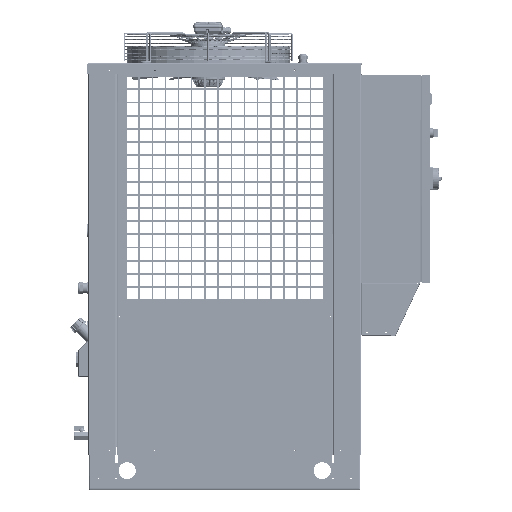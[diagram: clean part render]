
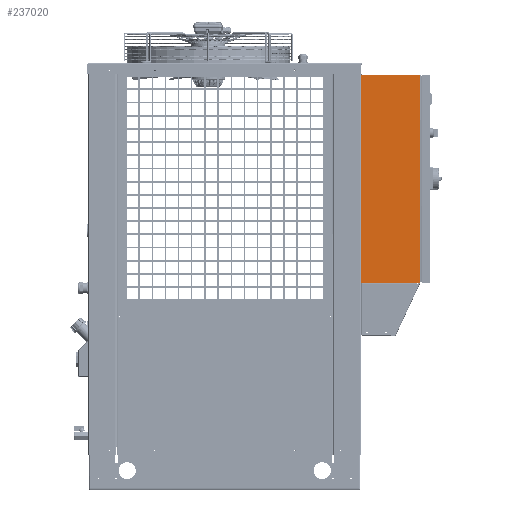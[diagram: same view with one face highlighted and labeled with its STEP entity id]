
A CAD part, top view. The second image highlights one B-rep face of the part: STEP entity #237020.
In plain terms, the highlighted planar face has unit normal (0, 0, 1) as drawn and (-1, 0, 0) by its records, which use the part's own axes.
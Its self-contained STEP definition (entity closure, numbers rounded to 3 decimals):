
#3804 = VERTEX_POINT ( 'NONE', #4406 ) ;
#4406 = CARTESIAN_POINT ( 'NONE',  ( -200., 300., -28.805 ) ) ;
#25317 = DIRECTION ( 'NONE',  ( 0., -1., 0. ) ) ;
#39452 = CARTESIAN_POINT ( 'NONE',  ( -200., 300., -200. ) ) ;
#54263 = DIRECTION ( 'NONE',  ( 0., -1., 0. ) ) ;
#55321 = VERTEX_POINT ( 'NONE', #156768 ) ;
#87536 = VECTOR ( 'NONE', #25317, 1000. ) ;
#103620 = CARTESIAN_POINT ( 'NONE',  ( -200., -300., -28.805 ) ) ;
#112645 = CARTESIAN_POINT ( 'NONE',  ( -200., 300., -200. ) ) ;
#128686 = DIRECTION ( 'NONE',  ( 0., 0., 1. ) ) ;
#128784 = LINE ( 'NONE', #199173, #350219 ) ;
#135577 = LINE ( 'NONE', #39452, #474776 ) ;
#154867 = CARTESIAN_POINT ( 'NONE',  ( -200., -300., -200. ) ) ;
#156768 = CARTESIAN_POINT ( 'NONE',  ( -200., 300., -200. ) ) ;
#174116 = CARTESIAN_POINT ( 'NONE',  ( -200., -300., -200. ) ) ;
#180265 = ORIENTED_EDGE ( 'NONE', *, *, #403846, .F. ) ;
#186084 = CARTESIAN_POINT ( 'NONE',  ( -200., 300., -200. ) ) ;
#189688 = VERTEX_POINT ( 'NONE', #174116 ) ;
#199173 = CARTESIAN_POINT ( 'NONE',  ( -200., 316.971, -28.805 ) ) ;
#229366 = ORIENTED_EDGE ( 'NONE', *, *, #551539, .T. ) ;
#237020 = ADVANCED_FACE ( 'NONE', ( #554249 ), #274958, .T. ) ;
#239858 = DIRECTION ( 'NONE',  ( 0., -1., 0. ) ) ;
#243757 = DIRECTION ( 'NONE',  ( 0., 0., 1. ) ) ;
#265384 = EDGE_CURVE ( 'NONE', #55321, #3804, #135577, .T. ) ;
#274958 = PLANE ( 'NONE',  #311209 ) ;
#299061 = LINE ( 'NONE', #154867, #416922 ) ;
#311209 = AXIS2_PLACEMENT_3D ( 'NONE', #186084, #319473, #54263 ) ;
#319473 = DIRECTION ( 'NONE',  ( -1., 0., 0. ) ) ;
#350219 = VECTOR ( 'NONE', #239858, 1000. ) ;
#366397 = ORIENTED_EDGE ( 'NONE', *, *, #484209, .T. ) ;
#388440 = VERTEX_POINT ( 'NONE', #103620 ) ;
#403846 = EDGE_CURVE ( 'NONE', #3804, #388440, #128784, .T. ) ;
#416922 = VECTOR ( 'NONE', #243757, 1000. ) ;
#429049 = ORIENTED_EDGE ( 'NONE', *, *, #265384, .F. ) ;
#440775 = LINE ( 'NONE', #112645, #87536 ) ;
#474776 = VECTOR ( 'NONE', #128686, 1000. ) ;
#484209 = EDGE_CURVE ( 'NONE', #55321, #189688, #440775, .T. ) ;
#502446 = EDGE_LOOP ( 'NONE', ( #180265, #429049, #366397, #229366 ) ) ;
#551539 = EDGE_CURVE ( 'NONE', #189688, #388440, #299061, .T. ) ;
#554249 = FACE_OUTER_BOUND ( 'NONE', #502446, .T. ) ;
